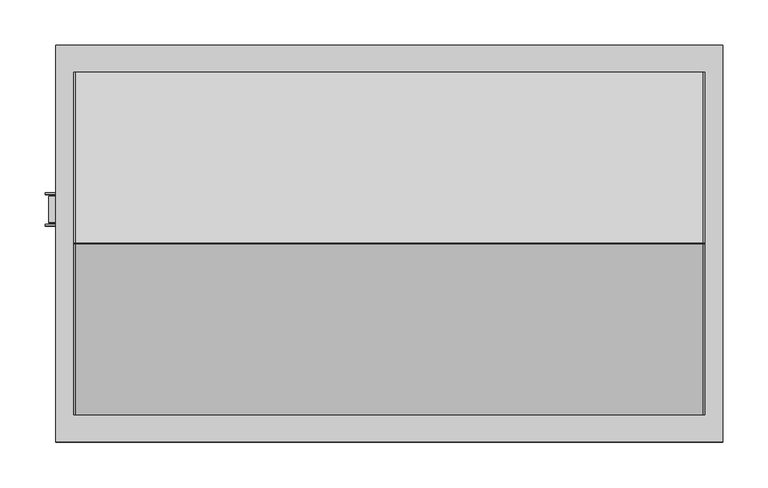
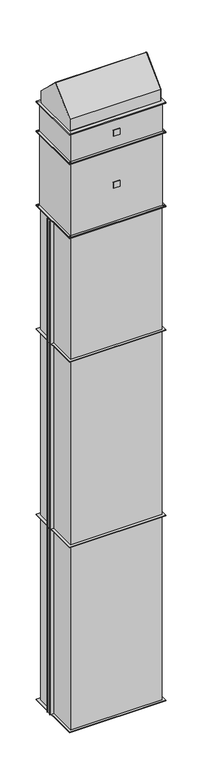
"""IFC4 building model written with IfcOpenShell, lengths in millimetres: proxy geometry, KORF_Завеса_БезНагрева_PWZ_C : PWZ-C 70-40 H DM."""

from ifc_helpers import new_model, si_unit, point, frame, frame_2d, origin, origin_with_axes, place, context, project, spatial, polyline, circle_curve, trimmed, segment, composite_curve, outline, extrude, source, transform, mapped, element, save


def mechanical_equipment_849cdbe2(model_context):
    return source(origin(), model_context, "Body", "SweptSolid", [
        extrude(outline(polyline([(25.0, -205.0), (-25.0, -205.0), (-25.0, -203.0), (25.0, -203.0), (25.0, -205.0)])), frame((0.0, 0.0, 4696.0), z_axis=(0.0, 0.0, 1.0), x_axis=(1.0, 0.0, 0.0)), (0.0, 0.0, 1.0), 50.0),
        extrude(outline(polyline([(-370.0, -220.0), (-370.0, 220.0), (370.0, 220.0), (370.0, -220.0), (-370.0, -220.0)]), holes=[polyline([(-350.0, -200.0), (350.0, -200.0), (350.0, 200.0), (-350.0, 200.0), (-350.0, -200.0)]), composite_curve([segment(trimmed(circle_curve(frame_2d((360.0, -210.0)), 4.5), [point((364.5, -210.0))], [point((355.5, -210.0))], True, "CARTESIAN"), True, "CONTINUOUS"), segment(trimmed(circle_curve(frame_2d((360.0, -210.0)), 4.5), [point((355.5, -210.0))], [point((364.5, -210.0))], True, "CARTESIAN"), True, "CONTINUOUS")], self_intersect=False), composite_curve([segment(trimmed(circle_curve(frame_2d((-360.0, -210.0)), 4.5), [point((-355.5, -210.0))], [point((-364.5, -210.0))], True, "CARTESIAN"), True, "CONTINUOUS"), segment(trimmed(circle_curve(frame_2d((-360.0, -210.0)), 4.5), [point((-364.5, -210.0))], [point((-355.5, -210.0))], True, "CARTESIAN"), True, "CONTINUOUS")], self_intersect=False), composite_curve([segment(trimmed(circle_curve(frame_2d((-360.0, 210.0)), 4.5), [point((-355.5, 210.0))], [point((-364.5, 210.0))], True, "CARTESIAN"), True, "CONTINUOUS"), segment(trimmed(circle_curve(frame_2d((-360.0, 210.0)), 4.5), [point((-364.5, 210.0))], [point((-355.5, 210.0))], True, "CARTESIAN"), True, "CONTINUOUS")], self_intersect=False), composite_curve([segment(trimmed(circle_curve(frame_2d((360.0, 210.0)), 4.5), [point((364.5, 210.0))], [point((355.5, 210.0))], True, "CARTESIAN"), True, "CONTINUOUS"), segment(trimmed(circle_curve(frame_2d((360.0, 210.0)), 4.5), [point((355.5, 210.0))], [point((364.5, 210.0))], True, "CARTESIAN"), True, "CONTINUOUS")], self_intersect=False)]), frame((0.0, 0.0, 4600.0), z_axis=(0.0, 0.0, 1.0), x_axis=(1.0, 0.0, 0.0)), (0.0, 0.0, 1.0), 5.0),
        extrude(outline(polyline([(-370.0, -220.0), (-370.0, 220.0), (370.0, 220.0), (370.0, -220.0), (-370.0, -220.0)]), holes=[polyline([(-350.0, -200.0), (350.0, -200.0), (350.0, 200.0), (-350.0, 200.0), (-350.0, -200.0)]), composite_curve([segment(trimmed(circle_curve(frame_2d((360.0, -210.0)), 4.5), [point((364.5, -210.0))], [point((355.5, -210.0))], True, "CARTESIAN"), True, "CONTINUOUS"), segment(trimmed(circle_curve(frame_2d((360.0, -210.0)), 4.5), [point((355.5, -210.0))], [point((364.5, -210.0))], True, "CARTESIAN"), True, "CONTINUOUS")], self_intersect=False), composite_curve([segment(trimmed(circle_curve(frame_2d((-360.0, -210.0)), 4.5), [point((-355.5, -210.0))], [point((-364.5, -210.0))], True, "CARTESIAN"), True, "CONTINUOUS"), segment(trimmed(circle_curve(frame_2d((-360.0, -210.0)), 4.5), [point((-364.5, -210.0))], [point((-355.5, -210.0))], True, "CARTESIAN"), True, "CONTINUOUS")], self_intersect=False), composite_curve([segment(trimmed(circle_curve(frame_2d((-360.0, 210.0)), 4.5), [point((-355.5, 210.0))], [point((-364.5, 210.0))], True, "CARTESIAN"), True, "CONTINUOUS"), segment(trimmed(circle_curve(frame_2d((-360.0, 210.0)), 4.5), [point((-364.5, 210.0))], [point((-355.5, 210.0))], True, "CARTESIAN"), True, "CONTINUOUS")], self_intersect=False), composite_curve([segment(trimmed(circle_curve(frame_2d((360.0, 210.0)), 4.5), [point((364.5, 210.0))], [point((355.5, 210.0))], True, "CARTESIAN"), True, "CONTINUOUS"), segment(trimmed(circle_curve(frame_2d((360.0, 210.0)), 4.5), [point((355.5, 210.0))], [point((364.5, 210.0))], True, "CARTESIAN"), True, "CONTINUOUS")], self_intersect=False)]), frame((0.0, 0.0, 4837.0), z_axis=(0.0, 0.0, 1.0), x_axis=(1.0, 0.0, 0.0)), (0.0, 0.0, 1.0), 5.0),
        extrude(outline(polyline([(-353.0, -203.0), (-353.0, 203.0), (353.0, 203.0), (353.0, -203.0), (-353.0, -203.0)])), frame((0.0, 0.0, 4605.0), z_axis=(0.0, 0.0, 1.0), x_axis=(1.0, 0.0, 0.0)), (0.0, 0.0, 1.0), 232.0),
        extrude(outline(polyline([(25.0, -205.0), (-25.0, -205.0), (-25.0, -203.0), (25.0, -203.0), (25.0, -205.0)])), frame((0.0, 0.0, 4275.0), z_axis=(0.0, 0.0, 1.0), x_axis=(1.0, 0.0, 0.0)), (0.0, 0.0, 1.0), 50.0),
        extrude(outline(polyline([(370.0, -220.0), (-370.0, -220.0), (-370.0, 220.0), (370.0, 220.0), (370.0, -220.0)]), holes=[polyline([(350.0, -200.0), (350.0, 200.0), (-350.0, 200.0), (-350.0, -200.0), (350.0, -200.0)]), composite_curve([segment(trimmed(circle_curve(frame_2d((-360.0, -210.0)), 4.5), [point((-355.5, -210.0))], [point((-364.5, -210.0))], True, "CARTESIAN"), True, "CONTINUOUS"), segment(trimmed(circle_curve(frame_2d((-360.0, -210.0)), 4.5), [point((-364.5, -210.0))], [point((-355.5, -210.0))], True, "CARTESIAN"), True, "CONTINUOUS")], self_intersect=False), composite_curve([segment(trimmed(circle_curve(frame_2d((360.0, -210.0)), 4.5), [point((364.5, -210.0))], [point((355.5, -210.0))], True, "CARTESIAN"), True, "CONTINUOUS"), segment(trimmed(circle_curve(frame_2d((360.0, -210.0)), 4.5), [point((355.5, -210.0))], [point((364.5, -210.0))], True, "CARTESIAN"), True, "CONTINUOUS")], self_intersect=False), composite_curve([segment(trimmed(circle_curve(frame_2d((360.0, 210.0)), 4.5), [point((364.5, 210.0))], [point((355.5, 210.0))], True, "CARTESIAN"), True, "CONTINUOUS"), segment(trimmed(circle_curve(frame_2d((360.0, 210.0)), 4.5), [point((355.5, 210.0))], [point((364.5, 210.0))], True, "CARTESIAN"), True, "CONTINUOUS")], self_intersect=False), composite_curve([segment(trimmed(circle_curve(frame_2d((-360.0, 210.0)), 4.5), [point((-355.5, 210.0))], [point((-364.5, 210.0))], True, "CARTESIAN"), True, "CONTINUOUS"), segment(trimmed(circle_curve(frame_2d((-360.0, 210.0)), 4.5), [point((-364.5, 210.0))], [point((-355.5, 210.0))], True, "CARTESIAN"), True, "CONTINUOUS")], self_intersect=False)]), frame((0.0, 0.0, 4595.0), z_axis=(0.0, 0.0, 1.0), x_axis=(1.0, 0.0, 0.0)), (0.0, 0.0, 1.0), 5.0),
        extrude(outline(polyline([(370.0, -220.0), (-370.0, -220.0), (-370.0, 220.0), (370.0, 220.0), (370.0, -220.0)]), holes=[polyline([(350.0, -200.0), (350.0, 200.0), (-350.0, 200.0), (-350.0, -200.0), (350.0, -200.0)]), composite_curve([segment(trimmed(circle_curve(frame_2d((-360.0, -210.0)), 4.5), [point((-355.5, -210.0))], [point((-364.5, -210.0))], True, "CARTESIAN"), True, "CONTINUOUS"), segment(trimmed(circle_curve(frame_2d((-360.0, -210.0)), 4.5), [point((-364.5, -210.0))], [point((-355.5, -210.0))], True, "CARTESIAN"), True, "CONTINUOUS")], self_intersect=False), composite_curve([segment(trimmed(circle_curve(frame_2d((360.0, -210.0)), 4.5), [point((364.5, -210.0))], [point((355.5, -210.0))], True, "CARTESIAN"), True, "CONTINUOUS"), segment(trimmed(circle_curve(frame_2d((360.0, -210.0)), 4.5), [point((355.5, -210.0))], [point((364.5, -210.0))], True, "CARTESIAN"), True, "CONTINUOUS")], self_intersect=False), composite_curve([segment(trimmed(circle_curve(frame_2d((360.0, 210.0)), 4.5), [point((364.5, 210.0))], [point((355.5, 210.0))], True, "CARTESIAN"), True, "CONTINUOUS"), segment(trimmed(circle_curve(frame_2d((360.0, 210.0)), 4.5), [point((355.5, 210.0))], [point((364.5, 210.0))], True, "CARTESIAN"), True, "CONTINUOUS")], self_intersect=False), composite_curve([segment(trimmed(circle_curve(frame_2d((-360.0, 210.0)), 4.5), [point((-355.5, 210.0))], [point((-364.5, 210.0))], True, "CARTESIAN"), True, "CONTINUOUS"), segment(trimmed(circle_curve(frame_2d((-360.0, 210.0)), 4.5), [point((-364.5, 210.0))], [point((-355.5, 210.0))], True, "CARTESIAN"), True, "CONTINUOUS")], self_intersect=False)]), frame((0.0, 0.0, 4000.0), z_axis=(0.0, 0.0, 1.0), x_axis=(1.0, 0.0, 0.0)), (0.0, 0.0, 1.0), 5.0),
        extrude(outline(polyline([(353.0, -203.0), (-353.0, -203.0), (-353.0, 203.0), (353.0, 203.0), (353.0, -203.0)])), frame((0.0, 0.0, 4005.0), z_axis=(0.0, 0.0, 1.0), x_axis=(1.0, 0.0, 0.0)), (0.0, 0.0, 1.0), 590.0),
        extrude(outline(polyline([(350.0, 200.0), (350.0, -200.0), (-350.0, -200.0), (-350.0, 200.0), (350.0, 200.0)])), frame((0.0, 0.0, 3000.0), z_axis=(0.0, 0.0, 1.0), x_axis=(1.0, 0.0, 0.0)), (0.0, 0.0, 1.0), 1000.0),
        extrude(outline(polyline([(-378.0, 52.5), (-350.0, 52.5), (-350.0, 23.5), (-378.0, 23.5), (-378.0, 52.5)])), frame((0.0, 0.0, 3002.0), z_axis=(0.0, 0.0, 1.0), x_axis=(1.0, 0.0, 0.0)), (0.0, 0.0, 1.0), 996.0),
        extrude(outline(polyline([(-382.0, 56.5), (-350.0, 56.5), (-350.0, 54.5), (-382.0, 54.5), (-382.0, 56.5)])), frame((0.0, 0.0, 3002.0), z_axis=(0.0, 0.0, 1.0), x_axis=(1.0, 0.0, 0.0)), (0.0, 0.0, 1.0), 996.0),
        extrude(outline(polyline([(-382.0, 19.5), (-382.0, 21.5), (-350.0, 21.5), (-350.0, 19.5), (-382.0, 19.5)])), frame((0.0, 0.0, 3002.0), z_axis=(0.0, 0.0, 1.0), x_axis=(1.0, 0.0, 0.0)), (0.0, 0.0, 1.0), 996.0),
        extrude(outline(polyline([(370.0, 220.0), (370.0, -220.0), (-370.0, -220.0), (-370.0, 220.0), (370.0, 220.0)]), holes=[polyline([(350.0, 200.0), (-350.0, 200.0), (-350.0, -200.0), (350.0, -200.0), (350.0, 200.0)])]), frame((0.0, 0.0, 3998.0), z_axis=(0.0, 0.0, 1.0), x_axis=(1.0, 0.0, 0.0)), (0.0, 0.0, 1.0), 2.0),
        extrude(outline(polyline([(370.0, 220.0), (370.0, -220.0), (-370.0, -220.0), (-370.0, 220.0), (370.0, 220.0)]), holes=[polyline([(350.0, 200.0), (-350.0, 200.0), (-350.0, -200.0), (350.0, -200.0), (350.0, 200.0)])]), frame((0.0, 0.0, 3000.0), z_axis=(0.0, 0.0, 1.0), x_axis=(1.0, 0.0, 0.0)), (0.0, 0.0, 1.0), 2.0),
        extrude(outline(polyline([(350.0, 200.0), (350.0, -200.0), (-350.0, -200.0), (-350.0, 200.0), (350.0, 200.0)])), frame((0.0, 0.0, 1500.0), z_axis=(0.0, 0.0, 1.0), x_axis=(1.0, 0.0, 0.0)), (0.0, 0.0, 1.0), 1500.0),
        extrude(outline(polyline([(-378.0, 52.5), (-350.0, 52.5), (-350.0, 23.5), (-378.0, 23.5), (-378.0, 52.5)])), frame((0.0, 0.0, 1502.0), z_axis=(0.0, 0.0, 1.0), x_axis=(1.0, 0.0, 0.0)), (0.0, 0.0, 1.0), 1496.0),
        extrude(outline(polyline([(-382.0, 56.5), (-350.0, 56.5), (-350.0, 54.5), (-382.0, 54.5), (-382.0, 56.5)])), frame((0.0, 0.0, 1502.0), z_axis=(0.0, 0.0, 1.0), x_axis=(1.0, 0.0, 0.0)), (0.0, 0.0, 1.0), 1496.0),
        extrude(outline(polyline([(-382.0, 19.5), (-382.0, 21.5), (-350.0, 21.5), (-350.0, 19.5), (-382.0, 19.5)])), frame((0.0, 0.0, 1502.0), z_axis=(0.0, 0.0, 1.0), x_axis=(1.0, 0.0, 0.0)), (0.0, 0.0, 1.0), 1496.0),
        extrude(outline(polyline([(370.0, 220.0), (370.0, -220.0), (-370.0, -220.0), (-370.0, 220.0), (370.0, 220.0)]), holes=[polyline([(350.0, 200.0), (-350.0, 200.0), (-350.0, -200.0), (350.0, -200.0), (350.0, 200.0)])]), frame((0.0, 0.0, 2998.0), z_axis=(0.0, 0.0, 1.0), x_axis=(1.0, 0.0, 0.0)), (0.0, 0.0, 1.0), 2.0),
        extrude(outline(polyline([(370.0, 220.0), (370.0, -220.0), (-370.0, -220.0), (-370.0, 220.0), (370.0, 220.0)]), holes=[polyline([(350.0, 200.0), (-350.0, 200.0), (-350.0, -200.0), (350.0, -200.0), (350.0, 200.0)])]), frame((0.0, 0.0, 1500.0), z_axis=(0.0, 0.0, 1.0), x_axis=(1.0, 0.0, 0.0)), (0.0, 0.0, 1.0), 2.0),
        extrude(outline(polyline([(350.0, 200.0), (350.0, -200.0), (-350.0, -200.0), (-350.0, 200.0), (350.0, 200.0)])), origin_with_axes(), (0.0, 0.0, 1.0), 1500.0),
        extrude(outline(polyline([(-378.0, 52.5), (-350.0, 52.5), (-350.0, 23.5), (-378.0, 23.5), (-378.0, 52.5)])), frame((0.0, 0.0, 2.0), z_axis=(0.0, 0.0, 1.0), x_axis=(1.0, 0.0, 0.0)), (0.0, 0.0, 1.0), 1496.0),
        extrude(outline(polyline([(-382.0, 56.5), (-350.0, 56.5), (-350.0, 54.5), (-382.0, 54.5), (-382.0, 56.5)])), frame((0.0, 0.0, 2.0), z_axis=(0.0, 0.0, 1.0), x_axis=(1.0, 0.0, 0.0)), (0.0, 0.0, 1.0), 1496.0),
        extrude(outline(polyline([(-382.0, 19.5), (-382.0, 21.5), (-350.0, 21.5), (-350.0, 19.5), (-382.0, 19.5)])), frame((0.0, 0.0, 2.0), z_axis=(0.0, 0.0, 1.0), x_axis=(1.0, 0.0, 0.0)), (0.0, 0.0, 1.0), 1496.0),
        extrude(outline(polyline([(370.0, 220.0), (370.0, -220.0), (-370.0, -220.0), (-370.0, 220.0), (370.0, 220.0)]), holes=[polyline([(350.0, 200.0), (-350.0, 200.0), (-350.0, -200.0), (350.0, -200.0), (350.0, 200.0)])]), frame((0.0, 0.0, 1498.0), z_axis=(0.0, 0.0, 1.0), x_axis=(1.0, 0.0, 0.0)), (0.0, 0.0, 1.0), 2.0),
        extrude(outline(polyline([(370.0, 220.0), (370.0, -220.0), (-370.0, -220.0), (-370.0, 220.0), (370.0, 220.0)]), holes=[polyline([(350.0, 200.0), (-350.0, 200.0), (-350.0, -200.0), (350.0, -200.0), (350.0, 200.0)])]), origin_with_axes(), (0.0, 0.0, 1.0), 2.0),
        extrude(outline(composite_curve([segment(polyline([(190.0, 4939.1428571), (190.0, 4844.0), (-190.0, 4844.0), (-190.0, 4939.1428571), (-0.6395979, 5121.3786763)]), True, "CONTINUOUS"), segment(trimmed(circle_curve(frame_2d((0.0, 5120.7202668)), 0.9179263), [point((-0.6395979, 5121.3786763))], [point((0.6395979, 5121.3786763))], False, "CARTESIAN"), True, "CONTINUOUS"), segment(polyline([(0.6395979, 5121.3786763), (190.0, 4939.1428571)]), True, "CONTINUOUS")], self_intersect=False)), frame((348.0, 0.0, 0.0), z_axis=(1.0, 0.0, 0.0), x_axis=(0.0, 1.0, 0.0)), (0.0, 0.0, 1.0), 2.0),
        extrude(outline(composite_curve([segment(polyline([(190.0, 4939.1428571), (190.0, 4844.0), (-190.0, 4844.0), (-190.0, 4939.1428571), (-0.6395979, 5121.3786763)]), True, "CONTINUOUS"), segment(trimmed(circle_curve(frame_2d((0.0, 5120.7202668)), 0.9179263), [point((-0.6395979, 5121.3786763))], [point((0.6395979, 5121.3786763))], False, "CARTESIAN"), True, "CONTINUOUS"), segment(polyline([(0.6395979, 5121.3786763), (190.0, 4939.1428571)]), True, "CONTINUOUS")], self_intersect=False)), frame((-348.0, 0.0, 0.0), z_axis=(1.0, 0.0, 0.0), x_axis=(0.0, 1.0, 0.0)), (0.0, 0.0, 1.0), 696.0),
        extrude(outline(composite_curve([segment(polyline([(190.0, 4939.1428571), (190.0, 4844.0), (-190.0, 4844.0), (-190.0, 4939.1428571), (-0.6395979, 5121.3786763)]), True, "CONTINUOUS"), segment(trimmed(circle_curve(frame_2d((0.0, 5120.7202668)), 0.9179263), [point((-0.6395979, 5121.3786763))], [point((0.6395979, 5121.3786763))], False, "CARTESIAN"), True, "CONTINUOUS"), segment(polyline([(0.6395979, 5121.3786763), (190.0, 4939.1428571)]), True, "CONTINUOUS")], self_intersect=False)), frame((-350.0, 0.0, 0.0), z_axis=(1.0, 0.0, 0.0), x_axis=(0.0, 1.0, 0.0)), (0.0, 0.0, 1.0), 2.0),
        extrude(outline(polyline([(370.0, 220.0), (370.0, -220.0), (-370.0, -220.0), (-370.0, 220.0), (370.0, 220.0)]), holes=[polyline([(-350.0, 190.0), (-350.0, -190.0), (350.0, -190.0), (350.0, 190.0), (-350.0, 190.0)])]), frame((0.0, 0.0, 4842.0), z_axis=(0.0, 0.0, 1.0), x_axis=(1.0, 0.0, 0.0)), (0.0, 0.0, 1.0), 2.0),
    ])


if __name__ == "__main__":
    model = new_model("IFC4")
    model_context = context("Model", 3, world=origin())
    ifc_project = project(units=[si_unit("LENGTHUNIT", "METRE", prefix="MILLI")], contexts=[model_context])
    site = spatial("IfcSite", under=ifc_project)
    building = spatial("IfcBuilding", under=site)
    placement = place(None, origin())
    mechanical_equipment_shape = mechanical_equipment_849cdbe2(model_context)
    element("IfcBuildingElementProxy", 1, Name="KORF_Завеса_БезНагрева_PWZ_C : PWZ-C 70-40 H DM", ObjectType="KORF_Завеса_БезНагрева_PWZ_C : PWZ-C 70-40 H DM", at=placement, inside=building, context=model_context, shape_type="MappedRepresentation", body=[
        mapped(mechanical_equipment_shape, transform((0.0, 0.0, 0.0), x_axis=(1.0, 0.0, 0.0), y_axis=(0.0, 1.0, 0.0), z_axis=(0.0, 0.0, 1.0))),
    ])
    save(model, "model.ifc")
